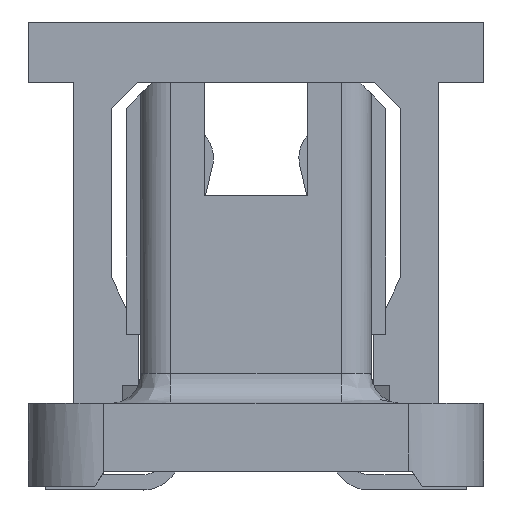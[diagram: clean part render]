
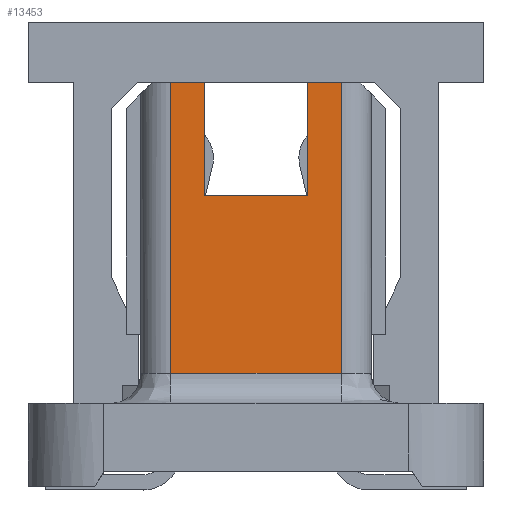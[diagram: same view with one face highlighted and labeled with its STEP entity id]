
A CAD part, left-side view. The second image highlights one B-rep face of the part: STEP entity #13453.
In plain terms, the highlighted planar face has unit normal (-1, 0, 0).
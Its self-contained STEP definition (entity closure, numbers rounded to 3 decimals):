
#90 = VERTEX_POINT ( 'NONE', #13547 ) ;
#118 = VERTEX_POINT ( 'NONE', #13496 ) ;
#269 = VERTEX_POINT ( 'NONE', #14126 ) ;
#280 = VERTEX_POINT ( 'NONE', #14081 ) ;
#638 = ORIENTED_EDGE ( 'NONE', *, *, #35391, .F. ) ;
#640 = ORIENTED_EDGE ( 'NONE', *, *, #35514, .F. ) ;
#643 = VECTOR ( 'NONE', #1301, 1000. ) ;
#648 = ORIENTED_EDGE ( 'NONE', *, *, #13142, .F. ) ;
#663 = ORIENTED_EDGE ( 'NONE', *, *, #13128, .F. ) ;
#664 = ORIENTED_EDGE ( 'NONE', *, *, #35466, .F. ) ;
#668 = ORIENTED_EDGE ( 'NONE', *, *, #35392, .F. ) ;
#673 = ORIENTED_EDGE ( 'NONE', *, *, #35747, .F. ) ;
#675 = ORIENTED_EDGE ( 'NONE', *, *, #35389, .F. ) ;
#703 = VECTOR ( 'NONE', #22581, 1000. ) ;
#802 = VECTOR ( 'NONE', #22358, 1000. ) ;
#804 = VECTOR ( 'NONE', #22355, 1000. ) ;
#806 = VECTOR ( 'NONE', #22351, 1000. ) ;
#1293 = LINE ( 'NONE', #1299, #643 ) ;
#1299 = CARTESIAN_POINT ( 'NONE',  ( -15.512, 1.896, 7.598 ) ) ;
#1301 = DIRECTION ( 'NONE',  ( 0., -1., 0. ) ) ;
#3493 = VECTOR ( 'NONE', #34332, 1000. ) ;
#4054 = VECTOR ( 'NONE', #34396, 1000. ) ;
#7017 = CARTESIAN_POINT ( 'NONE',  ( -15.512, 2.336, -500000. ) ) ;
#7039 = LINE ( 'NONE', #7017, #24621 ) ;
#7043 = DIRECTION ( 'NONE',  ( 0., 0., 1. ) ) ;
#13128 = EDGE_CURVE ( 'NONE', #17589, #17969, #34327, .T. ) ;
#13142 = EDGE_CURVE ( 'NONE', #17969, #280, #34387, .T. ) ;
#13453 = ADVANCED_FACE ( 'NONE', ( #14493 ), #14477, .F. ) ;
#13496 = CARTESIAN_POINT ( 'NONE',  ( -15.512, 2.336, 7.598 ) ) ;
#13547 = CARTESIAN_POINT ( 'NONE',  ( -15.512, 3.716, 7.598 ) ) ;
#14081 = CARTESIAN_POINT ( 'NONE',  ( -15.512, 4.156, 7.598 ) ) ;
#14126 = CARTESIAN_POINT ( 'NONE',  ( -15.512, 2.336, 6.098 ) ) ;
#14477 = PLANE ( 'NONE',  #28578 ) ;
#14493 = FACE_OUTER_BOUND ( 'NONE', #22080, .T. ) ;
#14506 = CARTESIAN_POINT ( 'NONE',  ( -15.512, 1.896, 3.728 ) ) ;
#14508 = DIRECTION ( 'NONE',  ( 1., 0., 0. ) ) ;
#14509 = DIRECTION ( 'NONE',  ( 0., 0., -1. ) ) ;
#17589 = VERTEX_POINT ( 'NONE', #25591 ) ;
#17969 = VERTEX_POINT ( 'NONE', #25852 ) ;
#17987 = VERTEX_POINT ( 'NONE', #25877 ) ;
#18116 = VERTEX_POINT ( 'NONE', #25956 ) ;
#22080 = EDGE_LOOP ( 'NONE', ( #638, #640, #648, #663, #664, #668, #673, #675 ) ) ;
#22340 = LINE ( 'NONE', #22349, #806 ) ;
#22347 = LINE ( 'NONE', #22354, #804 ) ;
#22349 = CARTESIAN_POINT ( 'NONE',  ( -15.512, 1.896, 6.098 ) ) ;
#22351 = DIRECTION ( 'NONE',  ( 0., -1., 0. ) ) ;
#22354 = CARTESIAN_POINT ( 'NONE',  ( -15.512, 3.716, -500000. ) ) ;
#22355 = DIRECTION ( 'NONE',  ( 0., 0., -1. ) ) ;
#22356 = LINE ( 'NONE', #22357, #802 ) ;
#22357 = CARTESIAN_POINT ( 'NONE',  ( -15.512, 1.896, 7.598 ) ) ;
#22358 = DIRECTION ( 'NONE',  ( 0., -1., 0. ) ) ;
#22579 = LINE ( 'NONE', #22580, #703 ) ;
#22580 = CARTESIAN_POINT ( 'NONE',  ( -15.512, 1.896, 3.728 ) ) ;
#22581 = DIRECTION ( 'NONE',  ( 0., 0., -1. ) ) ;
#24621 = VECTOR ( 'NONE', #7043, 1000. ) ;
#25591 = CARTESIAN_POINT ( 'NONE',  ( -15.512, 1.896, 3.728 ) ) ;
#25852 = CARTESIAN_POINT ( 'NONE',  ( -15.512, 4.156, 3.728 ) ) ;
#25877 = CARTESIAN_POINT ( 'NONE',  ( -15.512, 3.716, 6.098 ) ) ;
#25956 = CARTESIAN_POINT ( 'NONE',  ( -15.512, 1.896, 7.598 ) ) ;
#28578 = AXIS2_PLACEMENT_3D ( 'NONE', #14506, #14508, #14509 ) ;
#34326 = CARTESIAN_POINT ( 'NONE',  ( -15.512, 1.896, 3.728 ) ) ;
#34327 = LINE ( 'NONE', #34326, #3493 ) ;
#34332 = DIRECTION ( 'NONE',  ( 0., 1., 0. ) ) ;
#34387 = LINE ( 'NONE', #34388, #4054 ) ;
#34388 = CARTESIAN_POINT ( 'NONE',  ( -15.512, 4.156, 3.728 ) ) ;
#34396 = DIRECTION ( 'NONE',  ( 0., 0., 1. ) ) ;
#35389 = EDGE_CURVE ( 'NONE', #17987, #269, #22340, .T. ) ;
#35391 = EDGE_CURVE ( 'NONE', #90, #17987, #22347, .T. ) ;
#35392 = EDGE_CURVE ( 'NONE', #118, #18116, #22356, .T. ) ;
#35466 = EDGE_CURVE ( 'NONE', #18116, #17589, #22579, .T. ) ;
#35514 = EDGE_CURVE ( 'NONE', #280, #90, #1293, .T. ) ;
#35747 = EDGE_CURVE ( 'NONE', #269, #118, #7039, .T. ) ;
